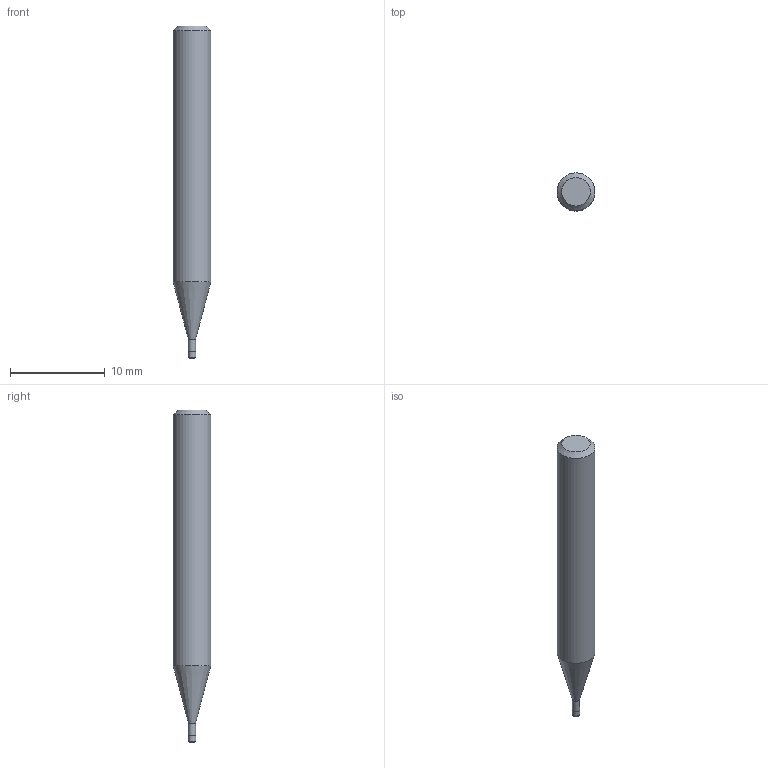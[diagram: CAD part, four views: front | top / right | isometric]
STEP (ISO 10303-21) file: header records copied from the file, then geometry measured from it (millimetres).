
FILE_DESCRIPTION((''),'2;1');
FILE_NAME('C:\Users\nsx150\AppData\Local\Temp\Mastercam 2021\80JYEHYUML\TEMP.step','2022-03-29T14:35:48',(''),(''),'STEP Write','Mastercam 2021 ... CNC Software, Inc.','');
FILE_SCHEMA(('AUTOMOTIVE_DESIGN'));
Length unit declared in the file: millimetre
Products named in the file (1): None
Bounding box: 4 x 4 x 35 mm (x, y, z)
Volume: 369.3 mm3; surface area: 400.3 mm2
Topology: 2 solids, 2 shells, 10 faces, 14 edges, 8 vertices
Faces by surface type: plane 4, cylinder 3, cone 2, torus 1
Full cylindrical faces by diameter (mm): 0.76 x1, 0.8 x1, 4 x1
Entity records: 232 total; most frequent: DIRECTION 40, CARTESIAN_POINT 28, AXIS2_PLACEMENT_3D 20, ORIENTED_EDGE 16, EDGE_LOOP 16, STYLED_ITEM 13, ADVANCED_FACE 10, FACE_BOUND 10
